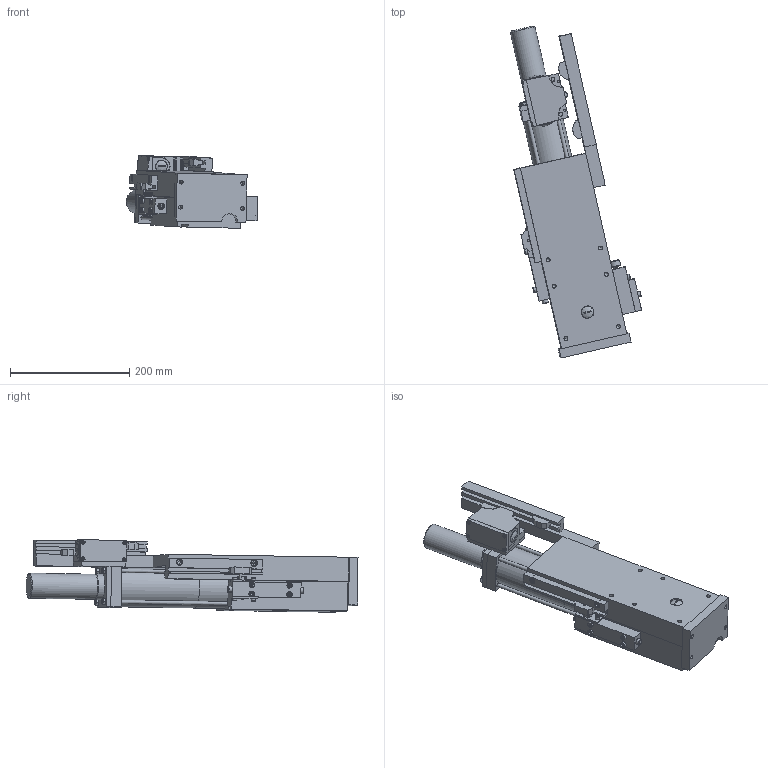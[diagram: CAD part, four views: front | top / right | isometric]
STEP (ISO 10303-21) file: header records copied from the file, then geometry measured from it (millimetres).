
FILE_DESCRIPTION((''),'2;1');
FILE_NAME('C:\VaultWork\Zeichnungen\Maßblätter\H60\VE01521-3-0 Maßblatt Vorschubschlitten H60-110 mit Griffhülse.stp','2010-06-23T09:59:39',('Test'),(''),'Autodesk Inventor 2008','Autodesk Inventor 2008','');
FILE_SCHEMA(('AUTOMOTIVE_DESIGN { 1 0 10303 214 1 1 1 1 }'));
Length unit declared in the file: millimetre
Products named in the file (1): VE01521-3-0 Maßblatt Vorschubschlitten H60-110 mit Griffhülse
Bounding box: 219.78 x 555.94 x 121.42 mm (x, y, z)
Volume: 3920116 mm3; surface area: 410350.4 mm2
Topology: 1 solids, 12 shells, 722 faces, 1855 edges, 1207 vertices
Faces by surface type: plane 496, cylinder 88, bspline 60, cone 48, torus 29, sphere 1
Full cylindrical faces by diameter (mm): 4 x7, 5.5 x2, 5.9 x2, 6 x10, 6.6 x2, 7 x4, 8.5 x9, 9.98 x2, 10 x8, 15 x2, 17 x1, 18 x1, 20 x3, 42 x1, 44 x1, 66 x2
Entity records: 22032 total; most frequent: CARTESIAN_POINT 5196, ORIENTED_EDGE 3198, DIRECTION 3134, EDGE_CURVE 1599, VERTEX_POINT 1123, VECTOR 1050, LINE 1050, AXIS2_PLACEMENT_3D 1042
